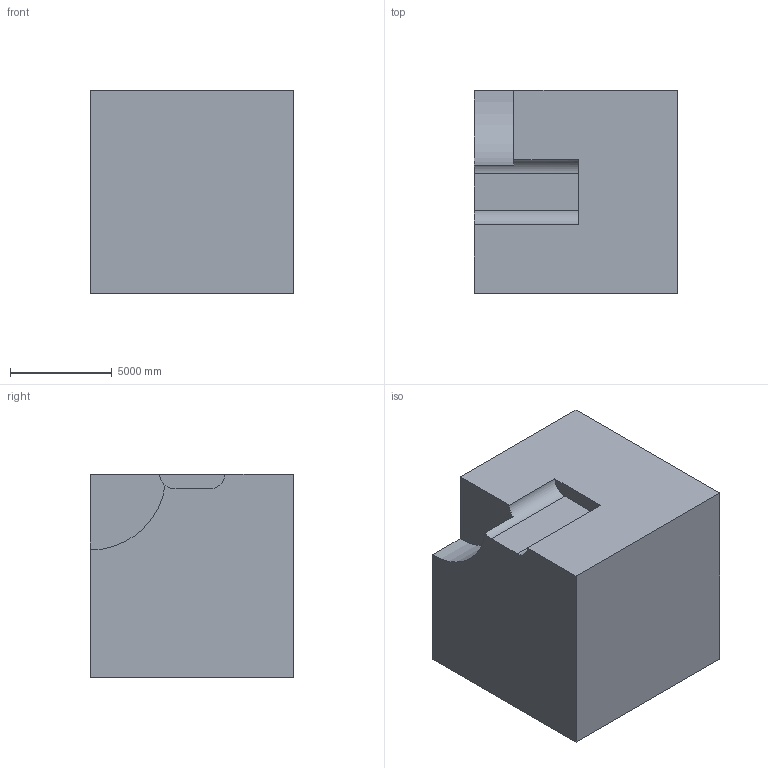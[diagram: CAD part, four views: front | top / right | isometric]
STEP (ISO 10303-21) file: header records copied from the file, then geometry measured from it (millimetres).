
FILE_DESCRIPTION (( 'STEP AP203' ), '1' );
FILE_NAME ('249.STEP', '2022-09-07T12:26:34', ( 'user' ), ( '' ), 'SwSTEP 2.0', 'SolidWorks 2021', '' );
FILE_SCHEMA (( 'CONFIG_CONTROL_DESIGN' ));
Length unit declared in the file: centimetre
Products named in the file (1): 249
Bounding box: 10000 x 10000 x 10000 mm (x, y, z)
Volume: 927366236597.2 mm3; surface area: 618166864.8 mm2
Topology: 1 solids, 1 shells, 16 faces, 42 edges, 28 vertices
Faces by surface type: plane 13, cylinder 3
Entity records: 570 total; most frequent: CARTESIAN_POINT 87, ORIENTED_EDGE 84, DIRECTION 83, EDGE_CURVE 42, LINE 35, VECTOR 35, VERTEX_POINT 28, AXIS2_PLACEMENT_3D 24
